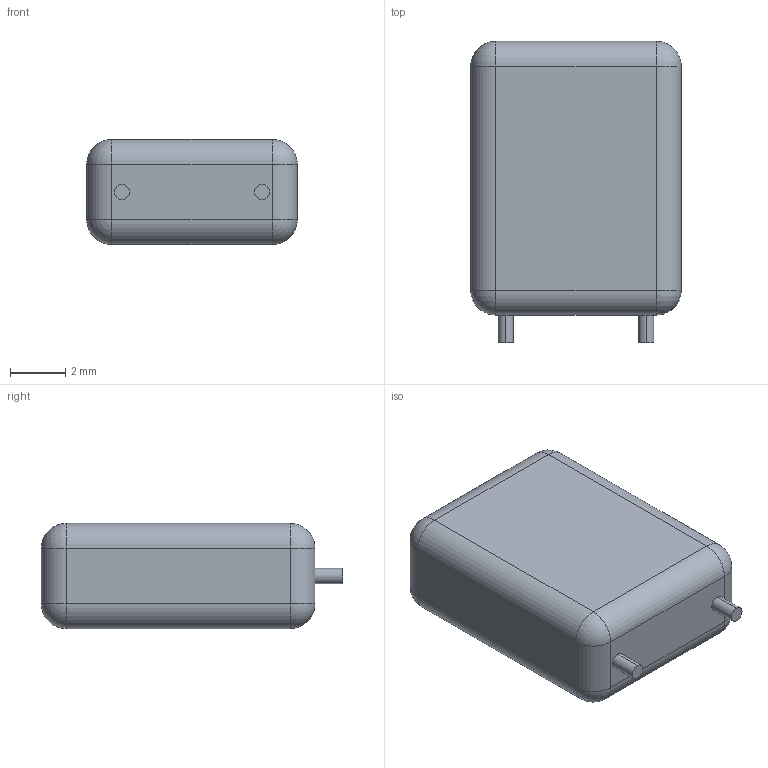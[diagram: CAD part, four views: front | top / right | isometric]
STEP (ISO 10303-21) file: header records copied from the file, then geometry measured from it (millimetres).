
FILE_DESCRIPTION (( 'STEP AP214' ), '1' );
FILE_NAME ( 'CAPRR508W55L762T381H991P.STEP', '2014-04-11T12:31:22', ( '' ), ( '' ), 'FPX Expert 2013', 'PCB Libraries', '' );
FILE_SCHEMA (( 'AUTOMOTIVE_DESIGN' ));
Length unit declared in the file: millimetre
Products named in the file (1): CAPRR508W55L762T381H991P
Bounding box: 7.62 x 10.91 x 3.81 mm (x, y, z)
Volume: 274.5 mm3; surface area: 255.3 mm2
Topology: 3 solids, 3 shells, 34 faces, 68 edges, 32 vertices
Faces by surface type: cylinder 16, plane 10, sphere 8
Entity records: 947 total; most frequent: DIRECTION 162, CARTESIAN_POINT 127, ORIENTED_EDGE 120, AXIS2_PLACEMENT_3D 67, EDGE_CURVE 60, STYLED_ITEM 38, PRESENTATION_LAYER_ASSIGNMENT 38, MECHANICAL_DESIGN_GEOMETRIC_PRESENTATION_REPRESENTATION 38
